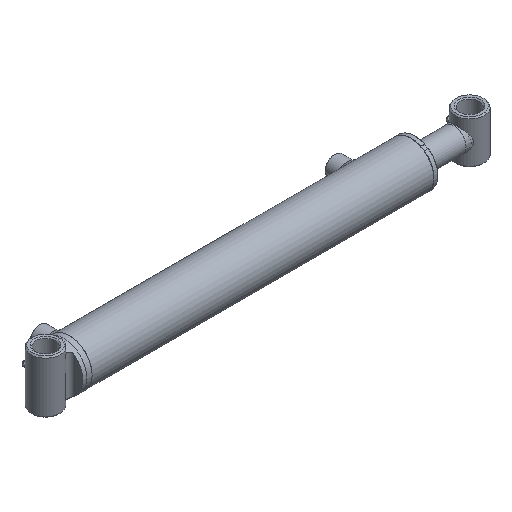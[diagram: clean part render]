
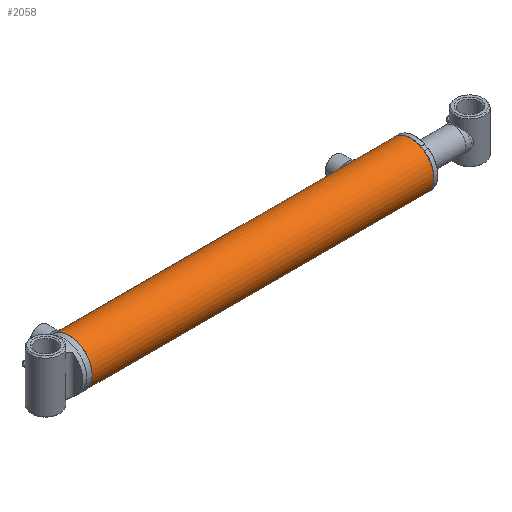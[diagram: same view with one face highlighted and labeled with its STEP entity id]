
A CAD part, isometric view. The second image highlights one B-rep face of the part: STEP entity #2058.
In plain terms, the highlighted cylindrical face has radius 30.163 mm (diameter 60.325 mm), a full revolution.
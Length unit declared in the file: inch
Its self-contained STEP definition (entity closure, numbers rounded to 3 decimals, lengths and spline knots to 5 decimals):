
#377=FACE_BOUND('',#700,.T.);
#378=FACE_BOUND('',#701,.T.);
#379=FACE_BOUND('',#702,.T.);
#500=FACE_OUTER_BOUND('',#699,.T.);
#699=EDGE_LOOP('',(#1636));
#700=EDGE_LOOP('',(#1637));
#701=EDGE_LOOP('',(#1638));
#702=EDGE_LOOP('',(#1639));
#908=CIRCLE('',#2250,1.1875);
#912=CIRCLE('',#2258,1.1875);
#1027=B_SPLINE_CURVE_WITH_KNOTS('',3,(#4715,#4716,#4717,#4718,#4719,#4720,
#4721,#4722,#4723,#4724,#4725,#4726,#4727,#4728,#4729,#4730,#4731,#4732,
#4733,#4734,#4735,#4736,#4737,#4738,#4739,#4740,#4741,#4742,#4743,#4744,
#4745,#4746,#4747,#4748),.UNSPECIFIED.,.T.,.F.,(4,2,2,2,2,2,2,2,2,2,2,2,
2,2,2,2,4),(0.,0.18872,0.37744,0.56616,0.75487,
0.94359,1.1323,1.32102,1.50975,1.69847,
1.88719,2.0759,2.26462,2.45333,2.64205,
2.83077,3.01949),.UNSPECIFIED.);
#1029=B_SPLINE_CURVE_WITH_KNOTS('',3,(#4898,#4899,#4900,#4901,#4902,#4903,
#4904,#4905,#4906,#4907,#4908,#4909,#4910,#4911,#4912,#4913,#4914,#4915,
#4916,#4917,#4918,#4919,#4920,#4921,#4922,#4923,#4924,#4925,#4926,#4927,
#4928,#4929,#4930,#4931),.UNSPECIFIED.,.T.,.F.,(4,2,2,2,2,2,2,2,2,2,2,2,
2,2,2,2,4),(0.,0.18872,0.37744,0.56616,0.75487,
0.94359,1.1323,1.32102,1.50975,1.69847,
1.88719,2.0759,2.26462,2.45333,2.64205,
2.83077,3.01949),.UNSPECIFIED.);
#1098=VERTEX_POINT('',#4714);
#1100=VERTEX_POINT('',#4897);
#1104=VERTEX_POINT('',#4941);
#1108=VERTEX_POINT('',#4953);
#1303=EDGE_CURVE('',#1098,#1098,#1027,.T.);
#1306=EDGE_CURVE('',#1100,#1100,#1029,.T.);
#1310=EDGE_CURVE('',#1104,#1104,#908,.T.);
#1314=EDGE_CURVE('',#1108,#1108,#912,.T.);
#1636=ORIENTED_EDGE('',*,*,#1314,.T.);
#1637=ORIENTED_EDGE('',*,*,#1303,.T.);
#1638=ORIENTED_EDGE('',*,*,#1306,.T.);
#1639=ORIENTED_EDGE('',*,*,#1310,.F.);
#1980=CYLINDRICAL_SURFACE('',#2260,1.1875);
#2058=ADVANCED_FACE('',(#500,#377,#378,#379),#1980,.T.);
#2250=AXIS2_PLACEMENT_3D('',#4942,#2627,#2628);
#2258=AXIS2_PLACEMENT_3D('',#4954,#2643,#2644);
#2260=AXIS2_PLACEMENT_3D('',#4956,#2647,#2648);
#2627=DIRECTION('center_axis',(1.,0.,0.));
#2628=DIRECTION('ref_axis',(0.,-1.,0.));
#2643=DIRECTION('center_axis',(1.,0.,0.));
#2644=DIRECTION('ref_axis',(0.,-1.,0.));
#2647=DIRECTION('center_axis',(1.,0.,0.));
#2648=DIRECTION('ref_axis',(0.,-1.,0.));
#4714=CARTESIAN_POINT('',(6.94094,1.17107,-0.19685));
#4715=CARTESIAN_POINT('Ctrl Pts',(6.94094,1.17107,-0.19685));
#4716=CARTESIAN_POINT('Ctrl Pts',(6.96571,1.17107,-0.19685));
#4717=CARTESIAN_POINT('Ctrl Pts',(6.9921,1.17194,-0.19189));
#4718=CARTESIAN_POINT('Ctrl Pts',(7.04058,1.17505,-0.17179));
#4719=CARTESIAN_POINT('Ctrl Pts',(7.06269,1.17725,-0.15665));
#4720=CARTESIAN_POINT('Ctrl Pts',(7.09759,1.18137,-0.12174));
#4721=CARTESIAN_POINT('Ctrl Pts',(7.11273,1.18356,-0.09964));
#4722=CARTESIAN_POINT('Ctrl Pts',(7.13284,1.18665,-0.05115));
#4723=CARTESIAN_POINT('Ctrl Pts',(7.1378,1.1875,-0.02477));
#4724=CARTESIAN_POINT('Ctrl Pts',(7.1378,1.1875,0.02477));
#4725=CARTESIAN_POINT('Ctrl Pts',(7.13284,1.18665,0.05115));
#4726=CARTESIAN_POINT('Ctrl Pts',(7.11273,1.18356,0.09964));
#4727=CARTESIAN_POINT('Ctrl Pts',(7.09759,1.18137,0.12174));
#4728=CARTESIAN_POINT('Ctrl Pts',(7.06269,1.17725,0.15665));
#4729=CARTESIAN_POINT('Ctrl Pts',(7.04058,1.17505,0.17179));
#4730=CARTESIAN_POINT('Ctrl Pts',(6.9921,1.17194,0.19189));
#4731=CARTESIAN_POINT('Ctrl Pts',(6.96571,1.17107,0.19685));
#4732=CARTESIAN_POINT('Ctrl Pts',(6.91618,1.17107,0.19685));
#4733=CARTESIAN_POINT('Ctrl Pts',(6.88979,1.17194,0.19189));
#4734=CARTESIAN_POINT('Ctrl Pts',(6.84131,1.17505,0.17179));
#4735=CARTESIAN_POINT('Ctrl Pts',(6.8192,1.17725,0.15665));
#4736=CARTESIAN_POINT('Ctrl Pts',(6.7843,1.18137,0.12174));
#4737=CARTESIAN_POINT('Ctrl Pts',(6.76916,1.18356,0.09964));
#4738=CARTESIAN_POINT('Ctrl Pts',(6.74905,1.18665,0.05115));
#4739=CARTESIAN_POINT('Ctrl Pts',(6.74409,1.1875,0.02477));
#4740=CARTESIAN_POINT('Ctrl Pts',(6.74409,1.1875,-0.02477));
#4741=CARTESIAN_POINT('Ctrl Pts',(6.74905,1.18665,-0.05115));
#4742=CARTESIAN_POINT('Ctrl Pts',(6.76916,1.18356,-0.09964));
#4743=CARTESIAN_POINT('Ctrl Pts',(6.7843,1.18137,-0.12174));
#4744=CARTESIAN_POINT('Ctrl Pts',(6.8192,1.17725,-0.15665));
#4745=CARTESIAN_POINT('Ctrl Pts',(6.84131,1.17505,-0.17179));
#4746=CARTESIAN_POINT('Ctrl Pts',(6.88979,1.17194,-0.19189));
#4747=CARTESIAN_POINT('Ctrl Pts',(6.91618,1.17107,-0.19685));
#4748=CARTESIAN_POINT('Ctrl Pts',(6.94094,1.17107,-0.19685));
#4897=CARTESIAN_POINT('',(-8.35827,1.17107,-0.19685));
#4898=CARTESIAN_POINT('Ctrl Pts',(-8.35827,1.17107,-0.19685));
#4899=CARTESIAN_POINT('Ctrl Pts',(-8.3335,1.17107,-0.19685));
#4900=CARTESIAN_POINT('Ctrl Pts',(-8.30712,1.17194,-0.19189));
#4901=CARTESIAN_POINT('Ctrl Pts',(-8.25863,1.17505,-0.17179));
#4902=CARTESIAN_POINT('Ctrl Pts',(-8.23653,1.17725,-0.15665));
#4903=CARTESIAN_POINT('Ctrl Pts',(-8.20162,1.18137,-0.12174));
#4904=CARTESIAN_POINT('Ctrl Pts',(-8.18648,1.18356,-0.09964));
#4905=CARTESIAN_POINT('Ctrl Pts',(-8.16638,1.18665,-0.05115));
#4906=CARTESIAN_POINT('Ctrl Pts',(-8.16142,1.1875,-0.02477));
#4907=CARTESIAN_POINT('Ctrl Pts',(-8.16142,1.1875,0.02477));
#4908=CARTESIAN_POINT('Ctrl Pts',(-8.16638,1.18665,0.05115));
#4909=CARTESIAN_POINT('Ctrl Pts',(-8.18648,1.18356,0.09964));
#4910=CARTESIAN_POINT('Ctrl Pts',(-8.20162,1.18137,0.12174));
#4911=CARTESIAN_POINT('Ctrl Pts',(-8.23653,1.17725,0.15665));
#4912=CARTESIAN_POINT('Ctrl Pts',(-8.25863,1.17505,0.17179));
#4913=CARTESIAN_POINT('Ctrl Pts',(-8.30712,1.17194,0.19189));
#4914=CARTESIAN_POINT('Ctrl Pts',(-8.3335,1.17107,0.19685));
#4915=CARTESIAN_POINT('Ctrl Pts',(-8.38303,1.17107,0.19685));
#4916=CARTESIAN_POINT('Ctrl Pts',(-8.40942,1.17194,0.19189));
#4917=CARTESIAN_POINT('Ctrl Pts',(-8.45791,1.17505,0.17179));
#4918=CARTESIAN_POINT('Ctrl Pts',(-8.48001,1.17725,0.15665));
#4919=CARTESIAN_POINT('Ctrl Pts',(-8.51491,1.18137,0.12174));
#4920=CARTESIAN_POINT('Ctrl Pts',(-8.53006,1.18356,0.09964));
#4921=CARTESIAN_POINT('Ctrl Pts',(-8.55016,1.18665,0.05115));
#4922=CARTESIAN_POINT('Ctrl Pts',(-8.55512,1.1875,0.02477));
#4923=CARTESIAN_POINT('Ctrl Pts',(-8.55512,1.1875,-0.02477));
#4924=CARTESIAN_POINT('Ctrl Pts',(-8.55016,1.18665,-0.05115));
#4925=CARTESIAN_POINT('Ctrl Pts',(-8.53006,1.18356,-0.09964));
#4926=CARTESIAN_POINT('Ctrl Pts',(-8.51491,1.18137,-0.12174));
#4927=CARTESIAN_POINT('Ctrl Pts',(-8.48001,1.17725,-0.15665));
#4928=CARTESIAN_POINT('Ctrl Pts',(-8.45791,1.17505,-0.17179));
#4929=CARTESIAN_POINT('Ctrl Pts',(-8.40942,1.17194,-0.19189));
#4930=CARTESIAN_POINT('Ctrl Pts',(-8.38303,1.17107,-0.19685));
#4931=CARTESIAN_POINT('Ctrl Pts',(-8.35827,1.17107,-0.19685));
#4941=CARTESIAN_POINT('',(8.94882,1.1875,0.));
#4942=CARTESIAN_POINT('Origin',(8.94882,0.,0.));
#4953=CARTESIAN_POINT('',(-8.78494,1.1875,0.));
#4954=CARTESIAN_POINT('Origin',(-8.78494,0.,0.));
#4956=CARTESIAN_POINT('Origin',(0.,0.,0.));
